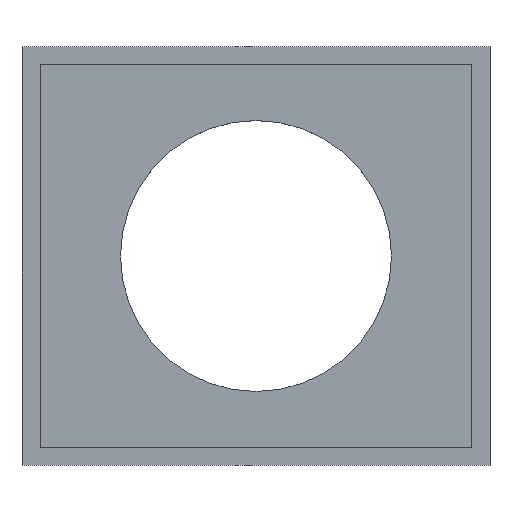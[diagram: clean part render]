
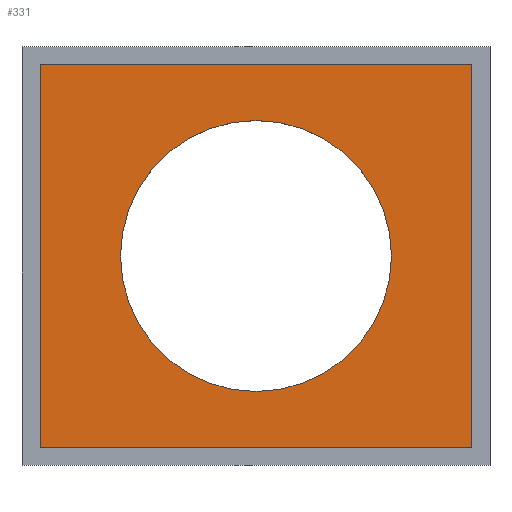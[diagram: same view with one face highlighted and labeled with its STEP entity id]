
A CAD part, top view. The second image highlights one B-rep face of the part: STEP entity #331.
In plain terms, the highlighted planar face has unit normal (0, 0, 1).
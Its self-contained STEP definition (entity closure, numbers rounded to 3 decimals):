
#215 = VERTEX_POINT('',#216);
#216 = CARTESIAN_POINT('',(26.3,-23.3,2.));
#222 = EDGE_CURVE('',#223,#215,#225,.T.);
#223 = VERTEX_POINT('',#224);
#224 = CARTESIAN_POINT('',(-26.3,-23.3,2.));
#225 = LINE('',#226,#227);
#226 = CARTESIAN_POINT('',(-26.3,-23.3,2.));
#227 = VECTOR('',#228,1.);
#228 = DIRECTION('',(1.,0.,0.));
#246 = EDGE_CURVE('',#215,#247,#249,.T.);
#247 = VERTEX_POINT('',#248);
#248 = CARTESIAN_POINT('',(26.3,23.3,2.));
#249 = LINE('',#250,#251);
#250 = CARTESIAN_POINT('',(26.3,-23.3,2.));
#251 = VECTOR('',#252,1.);
#252 = DIRECTION('',(0.,1.,0.));
#270 = EDGE_CURVE('',#271,#247,#273,.T.);
#271 = VERTEX_POINT('',#272);
#272 = CARTESIAN_POINT('',(-26.3,23.3,2.));
#273 = LINE('',#274,#275);
#274 = CARTESIAN_POINT('',(-26.3,23.3,2.));
#275 = VECTOR('',#276,1.);
#276 = DIRECTION('',(1.,0.,0.));
#294 = EDGE_CURVE('',#223,#271,#295,.T.);
#295 = LINE('',#296,#297);
#296 = CARTESIAN_POINT('',(-26.3,-23.3,2.));
#297 = VECTOR('',#298,1.);
#298 = DIRECTION('',(0.,1.,0.));
#310 = EDGE_CURVE('',#311,#311,#313,.T.);
#311 = VERTEX_POINT('',#312);
#312 = CARTESIAN_POINT('',(16.5,0.,2.));
#313 = CIRCLE('',#314,16.5);
#314 = AXIS2_PLACEMENT_3D('',#315,#316,#317);
#315 = CARTESIAN_POINT('',(0.,0.,2.));
#316 = DIRECTION('',(0.,0.,1.));
#317 = DIRECTION('',(1.,0.,0.));
#331 = ADVANCED_FACE('',(#332,#338),#341,.T.);
#332 = FACE_BOUND('',#333,.T.);
#333 = EDGE_LOOP('',(#334,#335,#336,#337));
#334 = ORIENTED_EDGE('',*,*,#294,.F.);
#335 = ORIENTED_EDGE('',*,*,#222,.T.);
#336 = ORIENTED_EDGE('',*,*,#246,.T.);
#337 = ORIENTED_EDGE('',*,*,#270,.F.);
#338 = FACE_BOUND('',#339,.T.);
#339 = EDGE_LOOP('',(#340));
#340 = ORIENTED_EDGE('',*,*,#310,.F.);
#341 = PLANE('',#342);
#342 = AXIS2_PLACEMENT_3D('',#343,#344,#345);
#343 = CARTESIAN_POINT('',(-26.3,-23.3,2.));
#344 = DIRECTION('',(0.,0.,1.));
#345 = DIRECTION('',(1.,0.,0.));
